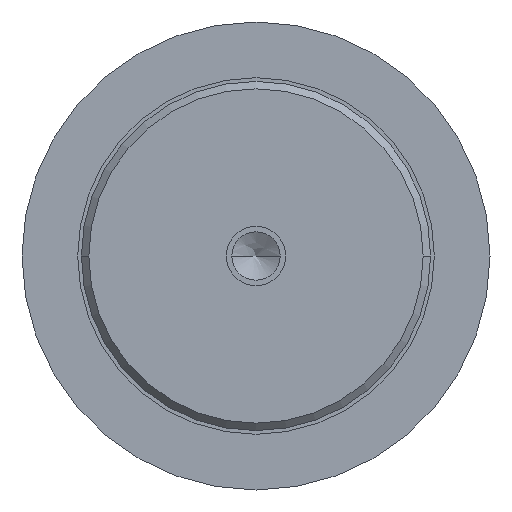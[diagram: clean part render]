
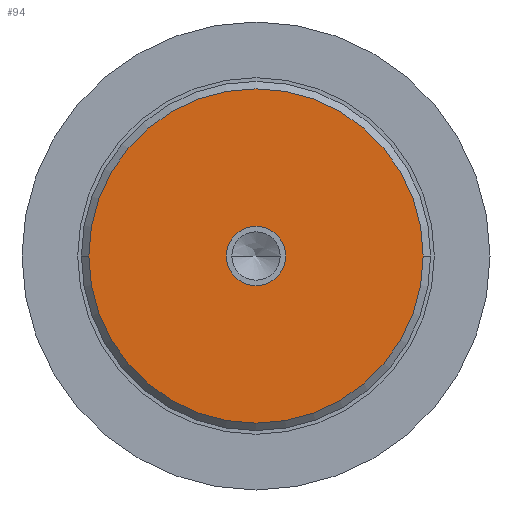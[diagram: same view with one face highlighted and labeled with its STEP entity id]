
A CAD part, left-side view. The second image highlights one B-rep face of the part: STEP entity #94.
In plain terms, the highlighted free-form (B-spline) face has degree [1, 1] with [2, 2] control points.
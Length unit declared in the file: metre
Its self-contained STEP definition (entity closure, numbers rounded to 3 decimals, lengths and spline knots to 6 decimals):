
#94 = ADVANCED_FACE( '', ( #155, #156 ), #157, .F. );
#155 = FACE_BOUND( '', #307, .T. );
#156 = FACE_OUTER_BOUND( '', #308, .T. );
#157 = B_SPLINE_SURFACE_WITH_KNOTS( '', 1, 1, ( ( #309, #310 ), ( #311, #312 ) ), .UNSPECIFIED., .F., .F., .F., ( 2, 2 ), ( 2, 2 ), ( 0., 1. ), ( 0., 1. ), .UNSPECIFIED. );
#307 = EDGE_LOOP( '', ( #503, #504 ) );
#308 = EDGE_LOOP( '', ( #505, #506 ) );
#309 = CARTESIAN_POINT( '', ( 0., -0.02277, -0.02277 ) );
#310 = CARTESIAN_POINT( '', ( 0., -0.02277, 0.02277 ) );
#311 = CARTESIAN_POINT( '', ( 0., 0.02277, -0.02277 ) );
#312 = CARTESIAN_POINT( '', ( 0., 0.02277, 0.02277 ) );
#503 = ORIENTED_EDGE( '', *, *, #686, .F. );
#504 = ORIENTED_EDGE( '', *, *, #684, .F. );
#505 = ORIENTED_EDGE( '', *, *, #689, .F. );
#506 = ORIENTED_EDGE( '', *, *, #690, .F. );
#684 = EDGE_CURVE( '', #778, #780, #781, .T. );
#686 = EDGE_CURVE( '', #780, #778, #783, .T. );
#689 = EDGE_CURVE( '', #787, #788, #789, .T. );
#690 = EDGE_CURVE( '', #788, #787, #790, .T. );
#778 = VERTEX_POINT( '', #910 );
#780 = VERTEX_POINT( '', #913 );
#781 = CIRCLE( '', #914, 0.004 );
#783 = CIRCLE( '', #917, 0.004 );
#787 = VERTEX_POINT( '', #923 );
#788 = VERTEX_POINT( '', #924 );
#789 = CIRCLE( '', #925, 0.0225 );
#790 = CIRCLE( '', #926, 0.0225 );
#910 = CARTESIAN_POINT( '', ( 0., -0.004, 0. ) );
#913 = CARTESIAN_POINT( '', ( 0., 0.004, 0. ) );
#914 = AXIS2_PLACEMENT_3D( '', #1076, #1077, #1078 );
#917 = AXIS2_PLACEMENT_3D( '', #1080, #1081, #1082 );
#923 = CARTESIAN_POINT( '', ( 0., 0.0225, 0. ) );
#924 = CARTESIAN_POINT( '', ( 0., -0.0225, 0. ) );
#925 = AXIS2_PLACEMENT_3D( '', #1085, #1086, #1087 );
#926 = AXIS2_PLACEMENT_3D( '', #1088, #1089, #1090 );
#1076 = CARTESIAN_POINT( '', ( 0., 0., 0. ) );
#1077 = DIRECTION( '', ( -1., 0., 0. ) );
#1078 = DIRECTION( '', ( 0., -1., 0. ) );
#1080 = CARTESIAN_POINT( '', ( 0., 0., 0. ) );
#1081 = DIRECTION( '', ( -1., 0., 0. ) );
#1082 = DIRECTION( '', ( 0., -1., 0. ) );
#1085 = CARTESIAN_POINT( '', ( 0., 0., 0. ) );
#1086 = DIRECTION( '', ( 1., 0., 0. ) );
#1087 = DIRECTION( '', ( 0., 1., 0. ) );
#1088 = CARTESIAN_POINT( '', ( 0., 0., 0. ) );
#1089 = DIRECTION( '', ( 1., 0., 0. ) );
#1090 = DIRECTION( '', ( 0., 1., 0. ) );
